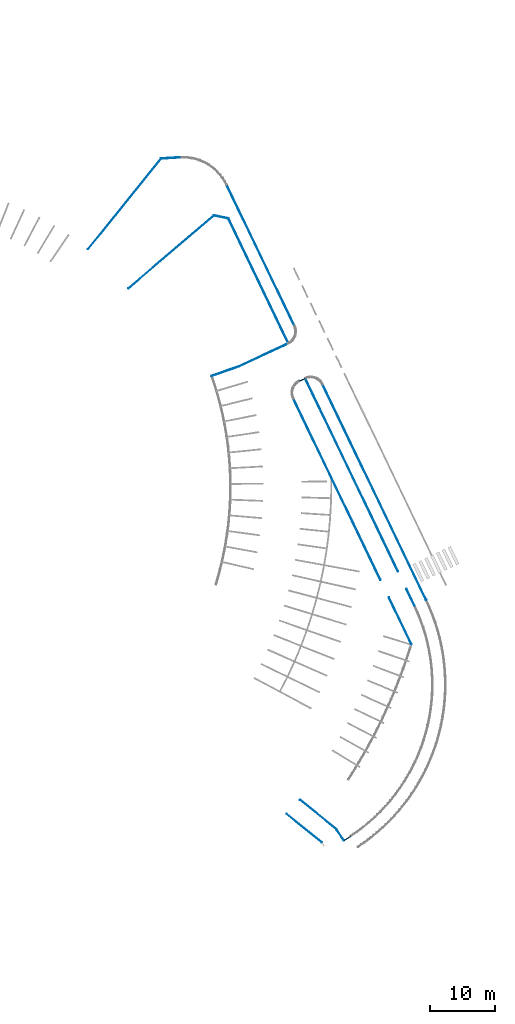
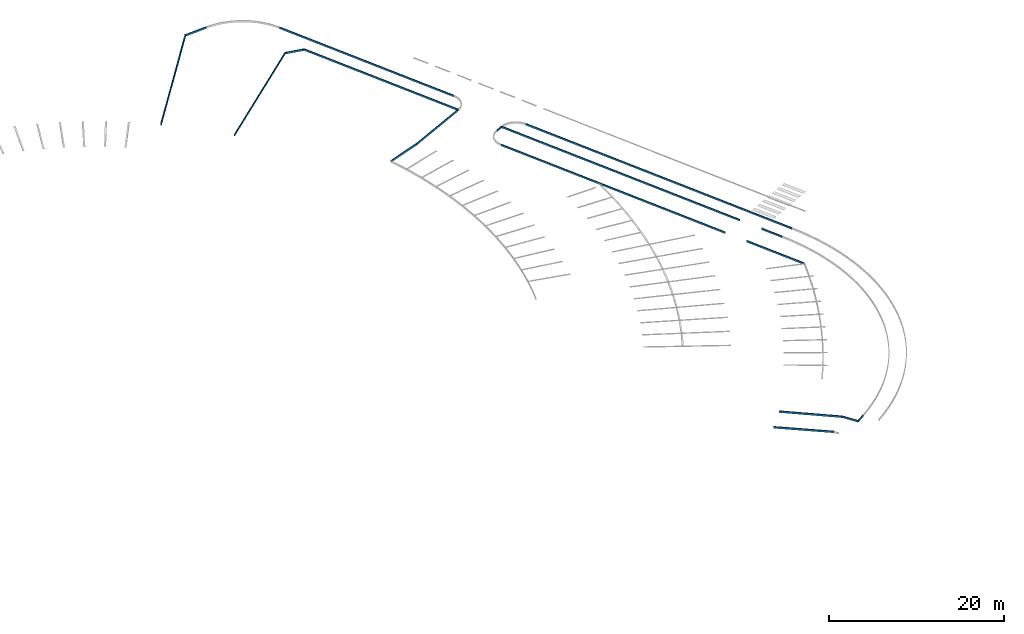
# One storey, part 26 of 157: 18 beams.
"""IFC2X3 building model written with IfcOpenShell, lengths in millimetres."""

import ifcopenshell
import ifcopenshell.guid

model = None  # the IFC model being written
_history = None  # IfcOwnerHistory: only IFC2X3 demands one
_inside = {}  # id of a spatial element -> (the spatial element, [elements in it])
_under = {}  # id of a project, library or spatial element -> (it, [spatial elements below it])
_declared = {}  # id of a project -> (the project, [libraries it declares])
_typed = {}  # id of a type object -> (the type object, [elements of that type])
_made_of = {}  # id of a material, layer set ... -> (it, [elements and type objects made of it])


def new_model(schema):
    """Start an empty IFC model of exactly this schema.

    Asked for "IFC4X3", IfcOpenShell would pick the latest addendum, in which some entities
    have other attributes; the version numbers below select the first issue.
    IFC2X3 requires an IfcOwnerHistory on every rooted entity: one is made here for all.
    """
    global model, _history
    if schema == "IFC4X3":
        model = ifcopenshell.file(schema_version=(4, 3, 0, 0))
    else:
        model = ifcopenshell.file(schema=schema)
    _inside.clear()
    _under.clear()
    _declared.clear()
    _typed.clear()
    _made_of.clear()
    _history = None
    if model.schema == "IFC2X3":
        org = make("IfcOrganization", Name="unknown")
        user = make(
            "IfcPersonAndOrganization",
            ThePerson=make("IfcPerson", FamilyName="unknown"),
            TheOrganization=org,
        )
        app = make(
            "IfcApplication",
            ApplicationDeveloper=org,
            Version="unknown",
            ApplicationFullName="unknown",
            ApplicationIdentifier="unknown",
        )
        _history = make(
            "IfcOwnerHistory",
            OwningUser=user,
            OwningApplication=app,
            ChangeAction="ADDED",
            CreationDate=0,
        )
    return model


def make(cls, **values):
    """One entity of the class cls with the attributes given. An attribute that is None is left unset."""
    return model.create_entity(
        cls, **{name: value for name, value in values.items() if value is not None}
    )


def entity(cls, *values):
    """Any entity or typed value of the class cls, its attributes in the order of the schema. None: left unset."""
    e = model.create_entity(cls)
    for i, value in enumerate(values):
        if value is not None:
            e[i] = value
    return e


def rooted(cls, **values):
    """An entity with a GlobalId (a new one), such as an element, a storey or a relation."""
    return make(cls, GlobalId=ifcopenshell.guid.new(), OwnerHistory=_history, **values)


def si_unit(unit_type, name, prefix=None):
    """IfcSIUnit, for example si_unit("LENGTHUNIT", "METRE", prefix="MILLI")."""
    return make("IfcSIUnit", UnitType=unit_type, Prefix=prefix, Name=name)


def converted_unit(unit_type, name, factor, base, dimensions=None, offset=None):
    """IfcConversionBasedUnit, such as the inch: factor (a typed value) times the base unit."""
    return make(
        "IfcConversionBasedUnit"
        if offset is None
        else "IfcConversionBasedUnitWithOffset",
        ConversionOffset=offset,
        Dimensions=None
        if dimensions is None
        else entity("IfcDimensionalExponents", *dimensions),
        UnitType=unit_type,
        Name=name,
        ConversionFactor=make(
            "IfcMeasureWithUnit", ValueComponent=factor, UnitComponent=base
        ),
    )


def derived_unit(unit_type, elements):
    """IfcDerivedUnit: a product of units, each with its exponent."""
    return make(
        "IfcDerivedUnit",
        Elements=[
            make("IfcDerivedUnitElement", Unit=unit, Exponent=power)
            for unit, power in elements
        ],
        UnitType=unit_type,
    )


def assignment(units):
    """IfcUnitAssignment: the units of a project."""
    return None if units is None else make("IfcUnitAssignment", Units=units)


def point(xyz):
    """IfcCartesianPoint."""
    return None if xyz is None else make("IfcCartesianPoint", Coordinates=xyz)


def direction(xyz):
    """IfcDirection."""
    return None if xyz is None else make("IfcDirection", DirectionRatios=xyz)


def frame(location, z_axis=None, x_axis=None):
    """IfcAxis2Placement3D, a coordinate frame: its origin and axes. An axis left out is left unset."""
    return make(
        "IfcAxis2Placement3D",
        Location=point(location),
        Axis=direction(z_axis),
        RefDirection=direction(x_axis),
    )


def frame_2d(location, x_axis=None):
    """IfcAxis2Placement2D, a coordinate frame in the plane: its origin and x axis."""
    return make(
        "IfcAxis2Placement2D", Location=point(location), RefDirection=direction(x_axis)
    )


def origin():
    """The frame at (0, 0, 0) with its axes left unset."""
    return frame((0.0, 0.0, 0.0))


def place(relative_to, where):
    """IfcLocalPlacement: puts the frame where relative to a parent placement (None: the world)."""
    return make(
        "IfcLocalPlacement", PlacementRelTo=relative_to, RelativePlacement=where
    )


def context(
    kind, dimensions, precision=None, world=None, true_north=None, identifier=None
):
    """IfcGeometricRepresentationContext, for example the 3D "Model" context."""
    return make(
        "IfcGeometricRepresentationContext",
        ContextIdentifier=identifier,
        ContextType=kind,
        CoordinateSpaceDimension=dimensions,
        Precision=precision,
        WorldCoordinateSystem=world,
        TrueNorth=true_north,
    )


def subcontext(parent, identifier, kind, view, scale=None):
    """IfcGeometricRepresentationSubContext, for example "Body" below "Model"."""
    return make(
        "IfcGeometricRepresentationSubContext",
        ContextIdentifier=identifier,
        ContextType=kind,
        ParentContext=parent,
        TargetScale=scale,
        TargetView=view,
    )


def project(units=None, contexts=None):
    """IfcProject with its units and contexts."""
    return rooted(
        "IfcProject",
        Name="project",
        RepresentationContexts=contexts,
        UnitsInContext=assignment(units),
    )


def spatial(cls, under=None, at=None, **own):
    """A site, building, storey or space (cls), placed at a placement, below another one or the project."""
    s = rooted(cls, ObjectPlacement=at, **own)
    if under is not None:
        _under.setdefault(under.id(), (under, []))[1].append(s)
    return s


def polyline(points):
    """IfcPolyline through the points."""
    return make("IfcPolyline", Points=[point(p) for p in points])


def profile(cls, at=None, kind="AREA", **sizes):
    """A parametric profile (cls). Its sizes go by their IFC names, for example OverallWidth=200.0."""
    return make(cls, ProfileType=kind, Position=at, **sizes)


def rectangle(**sizes):
    """IfcRectangleProfileDef."""
    return profile("IfcRectangleProfileDef", **sizes)


def outline(outer, holes=None, kind="AREA"):
    """IfcArbitraryClosedProfileDef: a profile drawn as a closed curve; with holes, ...WithVoids."""
    if holes is None:
        return make("IfcArbitraryClosedProfileDef", ProfileType=kind, OuterCurve=outer)
    return make(
        "IfcArbitraryProfileDefWithVoids",
        ProfileType=kind,
        OuterCurve=outer,
        InnerCurves=holes,
    )


def extrude(swept, where, along, depth):
    """IfcExtrudedAreaSolid: the profile swept, set in the frame where, extruded along a direction by depth."""
    return make(
        "IfcExtrudedAreaSolid",
        SweptArea=swept,
        Position=where,
        ExtrudedDirection=direction(along),
        Depth=depth,
    )


def shape(context_of_items, identifier, shape_type, items):
    """IfcShapeRepresentation: the items that make up one representation, for example the "Body"."""
    return make(
        "IfcShapeRepresentation",
        ContextOfItems=context_of_items,
        RepresentationIdentifier=identifier,
        RepresentationType=shape_type,
        Items=items,
    )


def material(Name=None, Category=None):
    """IfcMaterial."""
    return make("IfcMaterial", Name=Name, Category=Category)


def made_of(thing, what):
    """Note that an element or type object is made of a material, layer set ...; save() writes the relation."""
    if what is not None:
        _made_of.setdefault(what.id(), (what, []))[1].append(thing)
    return thing


def type_object(cls, material=None, **own):
    """A type object (cls), such as IfcWallType, which elements share."""
    return made_of(rooted(cls, **own), material)


def element(
    cls,
    number,
    at=None,
    inside=None,
    cuts=None,
    type_object=None,
    material=None,
    context=None,
    identifier="Body",
    shape_type=None,
    held_by="IfcProductDefinitionShape",
    body=None,
    shapes=None,
    **own,
):
    """One element of the class cls, such as IfcWall. Its Tag is "e" and its number.

    at: its placement. inside: the storey or other place that contains it. cuts: it is an
    opening in that element (IfcRelVoidsElement). A single representation is given by context,
    identifier, shape_type and body (its items); several are given by shapes. held_by: the class
    of the entity that holds the representations. save() writes the other relations.
    """
    e = rooted(cls, Tag="e%d" % number, ObjectPlacement=at, **own)
    if body is not None:
        shapes = [shape(context, identifier, shape_type, body)]
    if shapes is not None:
        e.Representation = make(held_by, Representations=shapes)
    if inside is not None:
        _inside.setdefault(inside.id(), (inside, []))[1].append(e)
    if cuts is not None:
        rooted(
            "IfcRelVoidsElement", RelatingBuildingElement=cuts, RelatedOpeningElement=e
        )
    if type_object is not None:
        _typed.setdefault(type_object.id(), (type_object, []))[1].append(e)
    return made_of(e, material)


def aggregate(whole, parts):
    """IfcRelAggregates: a whole, such as a stair, and the parts it consists of."""
    return rooted("IfcRelAggregates", RelatingObject=whole, RelatedObjects=parts)


def save(model, path):
    """Write the relations noted so far, then the file.

    IfcRelAggregates (storeys below a building ...), IfcRelContainedInSpatialStructure (elements
    in a storey), IfcRelDefinesByType, IfcRelAssociatesMaterial and IfcRelDeclares: one each for
    every whole, place, type object, material and project.
    """
    for whole, parts in _under.values():
        aggregate(whole, parts)
    for where, things in _inside.values():
        rooted(
            "IfcRelContainedInSpatialStructure",
            RelatedElements=things,
            RelatingStructure=where,
        )
    for kind, things in _typed.values():
        rooted("IfcRelDefinesByType", RelatedObjects=things, RelatingType=kind)
    for what, things in _made_of.values():
        rooted("IfcRelAssociatesMaterial", RelatedObjects=things, RelatingMaterial=what)
    for by, libraries in _declared.values():
        rooted("IfcRelDeclares", RelatingContext=by, RelatedDefinitions=libraries)
    model.write(path)


model = new_model("IFC2X3")

# Units and contexts
model_context = context("Model", 3, precision=0.01, world=origin(), true_north=direction((6.123031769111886e-17, 1.0)))
body_context = subcontext(model_context, "Body", "Model", "MODEL_VIEW")
ifc_project = project(units=[si_unit("LENGTHUNIT", "METRE", prefix="MILLI"), si_unit("AREAUNIT", "SQUARE_METRE"), si_unit("VOLUMEUNIT", "CUBIC_METRE"), converted_unit("PLANEANGLEUNIT", "DEGREE", entity("IfcRatioMeasure", 0.017453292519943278), si_unit("PLANEANGLEUNIT", "RADIAN"), dimensions=[0, 0, 0, 0, 0, 0, 0]), si_unit("MASSUNIT", "GRAM", prefix="KILO"), derived_unit("MASSDENSITYUNIT", [(si_unit("MASSUNIT", "GRAM", prefix="KILO"), 1), (si_unit("LENGTHUNIT", "METRE"), -3)]), derived_unit("MOMENTOFINERTIAUNIT", [(si_unit("LENGTHUNIT", "METRE"), 4)]), si_unit("TIMEUNIT", "SECOND"), si_unit("FREQUENCYUNIT", "HERTZ"), si_unit("THERMODYNAMICTEMPERATUREUNIT", "DEGREE_CELSIUS"), derived_unit("THERMALTRANSMITTANCEUNIT", [(si_unit("MASSUNIT", "GRAM", prefix="KILO"), 1), (si_unit("THERMODYNAMICTEMPERATUREUNIT", "KELVIN"), -1), (si_unit("TIMEUNIT", "SECOND"), -3)]), derived_unit("THERMALCONDUCTANCEUNIT", [(si_unit("MASSUNIT", "GRAM", prefix="KILO"), 1), (si_unit("LENGTHUNIT", "METRE"), 1), (si_unit("THERMODYNAMICTEMPERATUREUNIT", "KELVIN"), -1), (si_unit("TIMEUNIT", "SECOND"), -3)]), derived_unit("VOLUMETRICFLOWRATEUNIT", [(si_unit("LENGTHUNIT", "METRE"), 3), (si_unit("TIMEUNIT", "SECOND"), -1)]), derived_unit("MASSFLOWRATEUNIT", [(si_unit("MASSUNIT", "GRAM", prefix="KILO"), 1), (si_unit("TIMEUNIT", "SECOND"), -1)]), derived_unit("ROTATIONALFREQUENCYUNIT", [(si_unit("TIMEUNIT", "SECOND"), -1)]), si_unit("ELECTRICCURRENTUNIT", "AMPERE"), si_unit("ELECTRICVOLTAGEUNIT", "VOLT"), si_unit("POWERUNIT", "WATT"), converted_unit("FORCEUNIT", "KIP", entity("IfcRatioMeasure", 2.088543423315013e-05), si_unit("FORCEUNIT", "NEWTON"), dimensions=[1, 1, -2, 0, 0, 0, 0]), si_unit("ILLUMINANCEUNIT", "LUX"), si_unit("LUMINOUSFLUXUNIT", "LUMEN"), si_unit("LUMINOUSINTENSITYUNIT", "CANDELA"), derived_unit("USERDEFINED", [(si_unit("MASSUNIT", "GRAM", prefix="KILO"), -1), (si_unit("LENGTHUNIT", "METRE"), -2), (si_unit("TIMEUNIT", "SECOND"), 3), (si_unit("LUMINOUSFLUXUNIT", "LUMEN"), 1)]), derived_unit("USERDEFINED", [(si_unit("MASSUNIT", "GRAM", prefix="KILO"), 1), (si_unit("LENGTHUNIT", "METRE"), 3), (si_unit("TIMEUNIT", "SECOND"), -3), (si_unit("ELECTRICCURRENTUNIT", "AMPERE"), -2)]), derived_unit("USERDEFINED", [(si_unit("LENGTHUNIT", "METRE"), 2), (si_unit("TIMEUNIT", "SECOND"), -2)]), derived_unit("SOUNDPOWERUNIT", [(si_unit("MASSUNIT", "GRAM", prefix="KILO"), 1), (si_unit("LENGTHUNIT", "METRE"), 2), (si_unit("TIMEUNIT", "SECOND"), -3)]), derived_unit("SOUNDPRESSUREUNIT", [(si_unit("MASSUNIT", "GRAM", prefix="KILO"), 1), (si_unit("LENGTHUNIT", "METRE"), -1), (si_unit("TIMEUNIT", "SECOND"), -2)]), derived_unit("LINEARVELOCITYUNIT", [(si_unit("LENGTHUNIT", "METRE"), 1), (si_unit("TIMEUNIT", "SECOND"), -1)]), si_unit("PRESSUREUNIT", "PASCAL"), derived_unit("USERDEFINED", [(si_unit("LENGTHUNIT", "METRE"), -2), (si_unit("MASSUNIT", "GRAM", prefix="KILO"), 1), (si_unit("TIMEUNIT", "SECOND"), -2)]), derived_unit("LINEARFORCEUNIT", [(si_unit("MASSUNIT", "GRAM", prefix="KILO"), 1), (si_unit("LENGTHUNIT", "METRE"), 1), (si_unit("TIMEUNIT", "SECOND"), -2), (si_unit("LENGTHUNIT", "METRE"), -1)]), derived_unit("PLANARFORCEUNIT", [(si_unit("MASSUNIT", "GRAM", prefix="KILO"), 1), (si_unit("LENGTHUNIT", "METRE"), 1), (si_unit("TIMEUNIT", "SECOND"), -2), (si_unit("LENGTHUNIT", "METRE"), -2)]), derived_unit("SPECIFICHEATCAPACITYUNIT", [(si_unit("LENGTHUNIT", "METRE"), 2), (si_unit("TIMEUNIT", "SECOND"), -2), (si_unit("THERMODYNAMICTEMPERATUREUNIT", "KELVIN"), -1)]), derived_unit("VAPORPERMEABILITYUNIT", [(si_unit("TIMEUNIT", "SECOND"), 1), (si_unit("LENGTHUNIT", "METRE"), -1)]), derived_unit("DYNAMICVISCOSITYUNIT", [(si_unit("MASSUNIT", "GRAM", prefix="KILO"), 1), (si_unit("LENGTHUNIT", "METRE"), -1), (si_unit("TIMEUNIT", "SECOND"), -1)]), derived_unit("THERMALEXPANSIONCOEFFICIENTUNIT", [(si_unit("THERMODYNAMICTEMPERATUREUNIT", "KELVIN"), -1)])], contexts=[model_context])

# Site, building, storey
site_placement = place(None, frame((0.0, 0.0, 0.0), z_axis=(0.0, 0.0, 1.0), x_axis=(0.8191520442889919, 0.5735764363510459, 0.0)))
site = spatial("IfcSite", under=ifc_project, at=site_placement, Name="Default", CompositionType="ELEMENT")
building_placement = place(site_placement, origin())
building = spatial("IfcBuilding", under=site, at=building_placement, CompositionType="ELEMENT")
storey_placement = place(building_placement, origin())
storey = spatial("IfcBuildingStorey", under=building, at=storey_placement, Name="1.EG +0.00", CompositionType="ELEMENT", Elevation=-4.331468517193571e-12)

# Beams
ifc_material_1 = material(Name="Paveta_bordur")
beam_type_1 = type_object("IfcBeamType", Name="Beam-137 291495:Beam-137 291495", PredefinedType="NOTDEFINED")
beam_1_placement = place(storey_placement, origin())
element("IfcBeam", 1, at=beam_1_placement, inside=storey, type_object=beam_type_1, material=ifc_material_1, Name="Beam-137", ObjectType="Beam-137 291495:Beam-137 291495", context=body_context, shape_type="SweptSolid", body=[
    extrude(rectangle(XDim=250.00000000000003, YDim=99.9999999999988, at=frame_2d((-1.0661693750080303e-11, 0.0), x_axis=(0.0, 1.0))), frame((25283.054496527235, -63473.83893488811, 385.0), z_axis=(-0.6830534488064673, 0.7303683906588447, 0.0), x_axis=(0.7303683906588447, 0.6830534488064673, 0.0)), (0.0, 0.0, 1.0), 2314.304351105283),
])
beam_type_2 = type_object("IfcBeamType", Name="Beam-136 236875:Beam-136 236875", PredefinedType="NOTDEFINED")
beam_2_placement = place(storey_placement, origin())
element("IfcBeam", 2, at=beam_2_placement, inside=storey, type_object=beam_type_2, material=ifc_material_1, Name="Beam-136", ObjectType="Beam-136 236875:Beam-136 236875", context=body_context, shape_type="SweptSolid", body=[
    extrude(rectangle(XDim=250.00000000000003, YDim=100.00000000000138, at=frame_2d((0.0, 0.0), x_axis=(0.0, 1.0))), frame((15498.35663194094, -123004.7634799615, 385.0), z_axis=(0.16218824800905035, 0.9867598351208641, 0.0), x_axis=(0.9867598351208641, -0.16218824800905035, 0.0)), (0.0, 0.0, 1.0), 33000.2135429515),
])
beam_type_3 = type_object("IfcBeamType", Name="Beam-137 236851:Beam-137 236851", PredefinedType="NOTDEFINED")
beam_3_placement = place(storey_placement, origin())
element("IfcBeam", 3, at=beam_3_placement, inside=storey, type_object=beam_type_3, material=ifc_material_1, Name="Beam-137", ObjectType="Beam-137 236851:Beam-137 236851", context=body_context, shape_type="SweptSolid", body=[
    extrude(rectangle(XDim=250.00000000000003, YDim=99.9999999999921, at=frame_2d((0.0, -8.537170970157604e-12), x_axis=(1.0, 0.0))), frame((19886.030254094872, -90272.58921702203, 385.0), z_axis=(0.9850150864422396, -0.17246819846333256, 0.0), x_axis=(0.0, 0.0, -1.0)), (0.0, 0.0, 1.0), 999.8560563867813),
])
beam_type_4 = type_object("IfcBeamType", Name="Beam-139 236846:Beam-139 236846", PredefinedType="NOTDEFINED")
beam_4_placement = place(storey_placement, origin())
element("IfcBeam", 4, at=beam_4_placement, inside=storey, type_object=beam_type_4, material=ifc_material_1, Name="Beam-139", ObjectType="Beam-139 236846:Beam-139 236846", context=body_context, shape_type="SweptSolid", body=[
    extrude(rectangle(XDim=250.00000000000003, YDim=99.99999999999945, at=frame_2d((0.0, 4.61142235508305e-12), x_axis=(1.0, 0.0))), frame((12538.077126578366, -122518.1987359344, 385.0), z_axis=(0.16218673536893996, 0.9867600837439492, 0.0), x_axis=(0.0, 0.0, -1.0)), (0.0, 0.0, 1.0), 31010.529632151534),
])
beam_type_5 = type_object("IfcBeamType", Name="Beam-136 236833:Beam-136 236833", PredefinedType="NOTDEFINED")
beam_5_placement = place(storey_placement, origin())
element("IfcBeam", 5, at=beam_5_placement, inside=storey, type_object=beam_type_5, material=ifc_material_1, Name="Beam-136", ObjectType="Beam-136 236833:Beam-136 236833", context=body_context, shape_type="SweptSolid", body=[
    extrude(rectangle(XDim=250.00000000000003, YDim=99.99999999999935, at=frame_2d((-2.476241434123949e-12, 0.0), x_axis=(0.0, 1.0))), frame((14547.116026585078, -128792.1913071, 385.0), z_axis=(0.16218711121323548, 0.9867600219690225, 0.0), x_axis=(0.9867600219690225, -0.16218711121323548, 0.0)), (0.0, 0.0, 1.0), 2865.084832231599),
])
beam_type_6 = type_object("IfcBeamType", Name="Beam-138 236822:Beam-138 236822", PredefinedType="NOTDEFINED")
beam_6_placement = place(storey_placement, origin())
element("IfcBeam", 6, at=beam_6_placement, inside=storey, type_object=beam_type_6, material=ifc_material_1, Name="Beam-138", ObjectType="Beam-138 236822:Beam-138 236822", context=body_context, shape_type="SweptSolid", body=[
    extrude(rectangle(XDim=250.00000000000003, YDim=99.99999999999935, at=frame_2d((0.0, 2.476241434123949e-12), x_axis=(1.0, 0.0))), frame((10754.303433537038, -133370.8278712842, 385.0), z_axis=(0.16218711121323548, 0.9867600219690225, 0.0), x_axis=(0.0, 0.0, -1.0)), (0.0, 0.0, 1.0), 7998.245666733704),
])
ifc_material_2 = material(Name="Paint-01")
beam_type_7 = type_object("IfcBeamType", Name="Beam-145 236786:Beam-145 236786", PredefinedType="NOTDEFINED")
beam_7_placement = place(storey_placement, origin())
element("IfcBeam", 7, at=beam_7_placement, inside=storey, type_object=beam_type_7, material=ifc_material_2, Name="Beam-145", ObjectType="Beam-145 236786:Beam-145 236786", context=body_context, shape_type="SweptSolid", body=[
    extrude(outline(polyline([(-3624.527831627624, -125.0), (3627.0280611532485, -125.0), (3624.527831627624, 125.0), (-3627.0280611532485, 125.0), (-3624.527831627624, -125.0)])), frame((-16113.461584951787, -146656.3446978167, 329.5162212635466), z_axis=(0.9608394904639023, 0.27710552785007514, 0.0), x_axis=(0.2770916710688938, -0.9607914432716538, 0.010000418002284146)), (0.0, 0.0, 1.0), 99.99999999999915),
])
beam_type_8 = type_object("IfcBeamType", Name="Beam-146 236784:Beam-146 236784", PredefinedType="NOTDEFINED")
beam_8_placement = place(storey_placement, origin())
element("IfcBeam", 8, at=beam_8_placement, inside=storey, type_object=beam_type_8, material=ifc_material_1, Name="Beam-146", ObjectType="Beam-146 236784:Beam-146 236784", context=body_context, shape_type="SweptSolid", body=[
    extrude(rectangle(XDim=250.00000000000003, YDim=100.00000000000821, at=frame_2d((-8.693490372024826e-12, 0.0), x_axis=(0.0, 1.0))), frame((-15119.128342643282, -152204.78346223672, 385.0), z_axis=(0.99960582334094, -0.028074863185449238, 0.0), x_axis=(-0.028074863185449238, -0.99960582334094, 0.0)), (0.0, 0.0, 1.0), 1251.3608421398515),
])
beam_type_9 = type_object("IfcBeamType", Name="Beam-137 236767:Beam-137 236767", PredefinedType="NOTDEFINED")
beam_9_placement = place(storey_placement, origin())
element("IfcBeam", 9, at=beam_9_placement, inside=storey, type_object=beam_type_9, material=ifc_material_1, Name="Beam-137", ObjectType="Beam-137 236767:Beam-137 236767", context=body_context, shape_type="SweptSolid", body=[
    extrude(rectangle(XDim=250.00000000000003, YDim=100.00000000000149, at=frame_2d((-3.5456082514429e-12, 0.0), x_axis=(0.0, 1.0))), frame((21823.741581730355, -84520.58958151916, 385.0), z_axis=(0.162187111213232, 0.986760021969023, 0.0), x_axis=(0.986760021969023, -0.162187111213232, 0.0)), (0.0, 0.0, 1.0), 21329.148098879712),
])
beam_type_10 = type_object("IfcBeamType", Name="Beam-138 236757:Beam-138 236757", PredefinedType="NOTDEFINED")
beam_10_placement = place(storey_placement, origin())
element("IfcBeam", 10, at=beam_10_placement, inside=storey, type_object=beam_type_10, material=ifc_material_1, Name="Beam-138", ObjectType="Beam-138 236757:Beam-138 236757", context=body_context, shape_type="SweptSolid", body=[
    extrude(rectangle(XDim=250.00000000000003, YDim=100.00000000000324, at=frame_2d((0.0, -4.362732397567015e-12), x_axis=(1.0, 0.0))), frame((6461.562178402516, -63443.42024245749, 385.0), z_axis=(0.9953973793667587, 0.09583348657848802, 0.0), x_axis=(0.0, 0.0, -1.0)), (0.0, 0.0, 1.0), 17320.418063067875),
])
beam_type_11 = type_object("IfcBeamType", Name="Beam-143 236752:Beam-143 236752", PredefinedType="NOTDEFINED")
beam_11_placement = place(storey_placement, origin())
element("IfcBeam", 11, at=beam_11_placement, inside=storey, type_object=beam_type_11, material=ifc_material_1, Name="Beam-143", ObjectType="Beam-143 236752:Beam-143 236752", context=body_context, shape_type="SweptSolid", body=[
    extrude(rectangle(XDim=250.00000000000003, YDim=100.0000000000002, at=frame_2d((0.0, 0.0), x_axis=(0.0, 1.0))), frame((13594.65521168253, -83079.74291757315, 385.0), z_axis=(0.9850150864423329, -0.1724681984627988, 0.0), x_axis=(-0.1724681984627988, -0.9850150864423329, 0.0)), (0.0, 0.0, 1.0), 8333.278980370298),
])
beam_type_12 = type_object("IfcBeamType", Name="Beam-142 236743:Beam-142 236743", PredefinedType="NOTDEFINED")
beam_12_placement = place(storey_placement, origin())
element("IfcBeam", 12, at=beam_12_placement, inside=storey, type_object=beam_type_12, material=ifc_material_1, Name="Beam-142", ObjectType="Beam-142 236743:Beam-142 236743", context=body_context, shape_type="SweptSolid", body=[
    extrude(rectangle(XDim=250.00000000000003, YDim=100.00000000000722, at=frame_2d((9.07363073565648e-12, 0.0), x_axis=(0.0, 1.0))), frame((9262.057633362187, -81863.76667423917, 385.0), z_axis=(0.9627994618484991, -0.270216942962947, 0.0), x_axis=(-0.270216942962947, -0.9627994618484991, 0.0)), (0.0, 0.0, 1.0), 4500.000000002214),
])
beam_type_13 = type_object("IfcBeamType", Name="Beam-143 236732:Beam-143 236732", PredefinedType="NOTDEFINED")
beam_13_placement = place(storey_placement, origin())
element("IfcBeam", 13, at=beam_13_placement, inside=storey, type_object=beam_type_13, material=ifc_material_1, Name="Beam-143", ObjectType="Beam-143 236732:Beam-143 236732", context=body_context, shape_type="SweptSolid", body=[
    extrude(rectangle(XDim=250.00000000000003, YDim=100.00000000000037, at=frame_2d((2.142286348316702e-12, 0.0), x_axis=(0.0, 1.0))), frame((24121.51516708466, -82871.32475209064, 385.0), z_axis=(0.16219319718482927, 0.9867590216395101, 0.0), x_axis=(0.9867590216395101, -0.16219319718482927, 0.0)), (0.0, 0.0, 1.0), 24116.317089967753),
])
beam_type_14 = type_object("IfcBeamType", Name="Beam-145 236730:Beam-145 236730", PredefinedType="NOTDEFINED")
beam_14_placement = place(storey_placement, origin())
element("IfcBeam", 14, at=beam_14_placement, inside=storey, type_object=beam_type_14, material=ifc_material_1, Name="Beam-145", ObjectType="Beam-145 236730:Beam-145 236730", context=body_context, shape_type="SweptSolid", body=[
    extrude(rectangle(XDim=250.00000000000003, YDim=100.00000000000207, at=frame_2d((0.0, 4.828137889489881e-12), x_axis=(1.0, 0.0))), frame((22086.19256551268, -49949.07606016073, 385.0), z_axis=(0.8520968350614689, -0.5233841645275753, 0.0), x_axis=(0.0, 0.0, -1.0)), (0.0, 0.0, 1.0), 2900.508069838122),
])
beam_type_15 = type_object("IfcBeamType", Name="Beam-146 236717:Beam-146 236717", PredefinedType="NOTDEFINED")
beam_15_placement = place(storey_placement, origin())
element("IfcBeam", 15, at=beam_15_placement, inside=storey, type_object=beam_type_15, material=ifc_material_1, Name="Beam-146", ObjectType="Beam-146 236717:Beam-146 236717", context=body_context, shape_type="SweptSolid", body=[
    extrude(rectangle(XDim=250.00000000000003, YDim=100.00000000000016, at=frame_2d((0.0, -7.815970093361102e-14), x_axis=(1.0, 0.0))), frame((4837.3413999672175, -54923.63430268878, 385.0), z_axis=(0.9608394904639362, 0.2771055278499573, 0.0), x_axis=(0.0, 0.0, -1.0)), (0.0, 0.0, 1.0), 17951.854952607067),
])
beam_type_16 = type_object("IfcBeamType", Name="Beam-146 236712:Beam-146 236712", PredefinedType="NOTDEFINED")
beam_16_placement = place(storey_placement, origin())
element("IfcBeam", 16, at=beam_16_placement, inside=storey, type_object=beam_type_16, material=ifc_material_1, Name="Beam-146", ObjectType="Beam-146 236712:Beam-146 236712", context=body_context, shape_type="SweptSolid", body=[
    extrude(rectangle(XDim=250.00000000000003, YDim=99.99999999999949, at=frame_2d((0.0, 2.4513724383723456e-13), x_axis=(1.0, 0.0))), frame((-15119.12834264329, -152204.78346223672, 385.0), z_axis=(0.028074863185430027, 0.9996058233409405, 0.0), x_axis=(0.0, 0.0, -1.0)), (0.0, 0.0, 1.0), 2079.4973040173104),
])
beam_type_17 = type_object("IfcBeamType", Name="Beam-145 236702:Beam-145 236702", PredefinedType="NOTDEFINED")
beam_17_placement = place(storey_placement, origin())
element("IfcBeam", 17, at=beam_17_placement, inside=storey, type_object=beam_type_17, material=ifc_material_1, Name="Beam-145", ObjectType="Beam-145 236702:Beam-145 236702", context=body_context, shape_type="SweptSolid", body=[
    extrude(rectangle(XDim=250.00000000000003, YDim=100.00000000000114, at=frame_2d((2.135180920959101e-12, 0.0), x_axis=(0.0, 1.0))), frame((16520.636070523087, -129116.5655295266, 385.0), z_axis=(0.16218148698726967, 0.9867609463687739, 0.0), x_axis=(0.9867609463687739, -0.16218148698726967, 0.0)), (0.0, 0.0, 1.0), 36865.200154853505),
])
beam_type_18 = type_object("IfcBeamType", Name="Beam-145 236657:Beam-145 236657", PredefinedType="NOTDEFINED")
beam_18_placement = place(storey_placement, origin())
element("IfcBeam", 18, at=beam_18_placement, inside=storey, type_object=beam_type_18, material=ifc_material_2, Name="Beam-145", ObjectType="Beam-145 236657:Beam-145 236657", context=body_context, shape_type="SweptSolid", body=[
    extrude(outline(polyline([(-3488.489949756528, -125.0), (3492.5622881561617, -125.0), (3488.4899497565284, 125.0), (-3492.5622881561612, 125.0), (-3488.489949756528, -125.0)])), frame((-19087.83311764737, -147169.1687225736, 218.1325449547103), z_axis=(0.9608394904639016, 0.2771055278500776, 0.0), x_axis=(-0.2770687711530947, 0.9607120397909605, -0.01628719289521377)), (0.0, 0.0, 1.0), 99.99999999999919),
])

save(model, "model.ifc")
